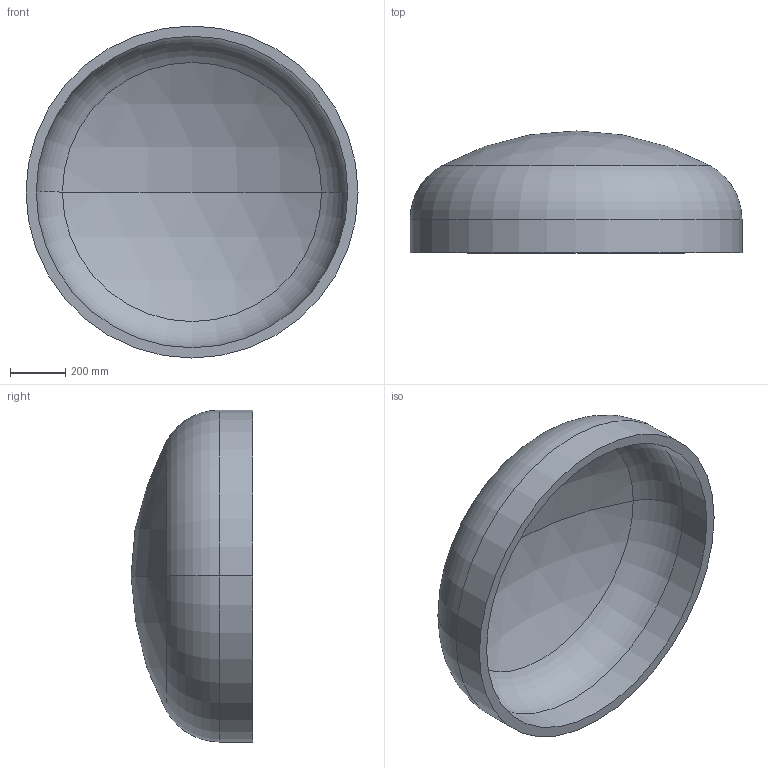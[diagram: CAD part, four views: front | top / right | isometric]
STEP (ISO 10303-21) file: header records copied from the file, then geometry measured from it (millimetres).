
FILE_DESCRIPTION (( 'STEP AP203' ), '1' );
FILE_NAME ('DIN 28013 Korbbogenform_-_Boden DIN 28013 - 1200 x 120 - I - s=37.step', '2016-07-01T09:27:31', ( '' ), ( '' ), 'SwSTEP 2.0', 'SolidWorks 2013', '' );
FILE_SCHEMA (( 'CONFIG_CONTROL_DESIGN' ));
Length unit declared in the file: millimetre
Products named in the file (1): DIN 28013 Korbbogenform_-_Boden DIN 28013 - 1200 x 120 - I - s=37
Bounding box: 1200 x 440.43 x 1200 mm (x, y, z)
Volume: 71903935.3 mm3; surface area: 4024751.3 mm2
Topology: 1 solids, 1 shells, 13 faces, 24 edges, 14 vertices
Faces by surface type: torus 4, cylinder 4, sphere 4, plane 1
Entity records: 407 total; most frequent: DIRECTION 72, CARTESIAN_POINT 52, ORIENTED_EDGE 48, AXIS2_PLACEMENT_3D 34, EDGE_CURVE 24, CIRCLE 20, EDGE_LOOP 14, VERTEX_POINT 14
